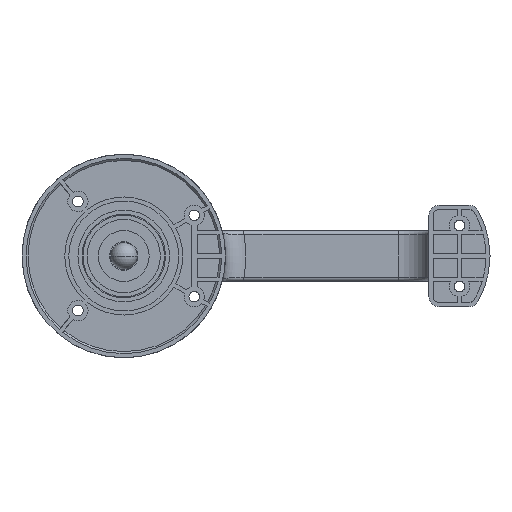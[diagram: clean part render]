
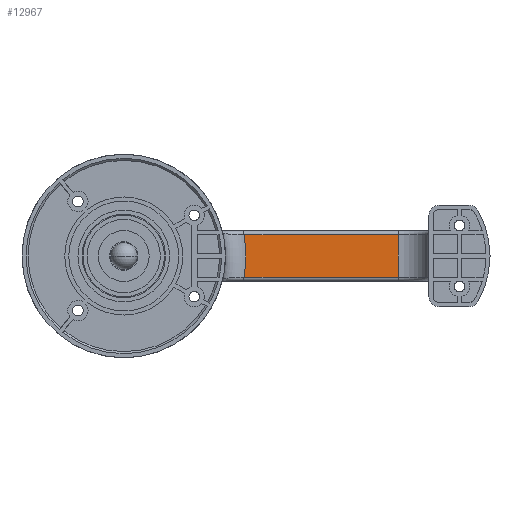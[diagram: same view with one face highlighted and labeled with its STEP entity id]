
A CAD part, left-side view. The second image highlights one B-rep face of the part: STEP entity #12967.
In plain terms, the highlighted planar face has unit normal (-1, 0, 0).
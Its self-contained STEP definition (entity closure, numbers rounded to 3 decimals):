
#647 = AXIS2_PLACEMENT_3D ( 'NONE', #3187, #1577, #17217 ) ;
#1577 = DIRECTION ( 'NONE',  ( 1., 0., 0. ) ) ;
#2820 = ORIENTED_EDGE ( 'NONE', *, *, #22670, .T. ) ;
#2938 = VECTOR ( 'NONE', #4189, 1000. ) ;
#3187 = CARTESIAN_POINT ( 'NONE',  ( -35.5, -135., 12.5 ) ) ;
#4189 = DIRECTION ( 'NONE',  ( 0., 0., -1. ) ) ;
#4276 = VECTOR ( 'NONE', #9863, 1000. ) ;
#4883 = EDGE_CURVE ( 'NONE', #13415, #5441, #13554, .T. ) ;
#5023 = FACE_OUTER_BOUND ( 'NONE', #8950, .T. ) ;
#5258 = CARTESIAN_POINT ( 'NONE',  ( -35.5, -135., -10.5 ) ) ;
#5441 = VERTEX_POINT ( 'NONE', #5648 ) ;
#5648 = CARTESIAN_POINT ( 'NONE',  ( -35.5, -59.074, -10.5 ) ) ;
#5909 = LINE ( 'NONE', #12920, #2938 ) ;
#6238 = CARTESIAN_POINT ( 'NONE',  ( -35.5, -135., -10.5 ) ) ;
#6402 = CARTESIAN_POINT ( 'NONE',  ( -35.5, -135., 10.5 ) ) ;
#7965 = LINE ( 'NONE', #6238, #9996 ) ;
#8612 = ORIENTED_EDGE ( 'NONE', *, *, #4883, .T. ) ;
#8950 = EDGE_LOOP ( 'NONE', ( #9273, #22086, #8612, #2820 ) ) ;
#9273 = ORIENTED_EDGE ( 'NONE', *, *, #12490, .F. ) ;
#9696 = VERTEX_POINT ( 'NONE', #6402 ) ;
#9844 = DIRECTION ( 'NONE',  ( 1., 0., 0. ) ) ;
#9863 = DIRECTION ( 'NONE',  ( 0., 1., 0. ) ) ;
#9996 = VECTOR ( 'NONE', #11514, 1000. ) ;
#10169 = CARTESIAN_POINT ( 'NONE',  ( -35.5, -59.074, 10.5 ) ) ;
#11514 = DIRECTION ( 'NONE',  ( 0., -1., 0. ) ) ;
#12490 = EDGE_CURVE ( 'NONE', #9696, #20484, #5909, .T. ) ;
#12920 = CARTESIAN_POINT ( 'NONE',  ( -35.5, -135., 12.5 ) ) ;
#12967 = ADVANCED_FACE ( 'NONE', ( #5023 ), #22406, .F. ) ;
#13415 = VERTEX_POINT ( 'NONE', #10169 ) ;
#13554 = CIRCLE ( 'NONE', #22002, 60. ) ;
#15595 = LINE ( 'NONE', #17319, #4276 ) ;
#16973 = CARTESIAN_POINT ( 'NONE',  ( -35.5, 0., 0. ) ) ;
#17217 = DIRECTION ( 'NONE',  ( 0., 0., -1. ) ) ;
#17319 = CARTESIAN_POINT ( 'NONE',  ( -35.5, -135., 10.5 ) ) ;
#18578 = DIRECTION ( 'NONE',  ( 0., 0., -1. ) ) ;
#20345 = EDGE_CURVE ( 'NONE', #9696, #13415, #15595, .T. ) ;
#20484 = VERTEX_POINT ( 'NONE', #5258 ) ;
#22002 = AXIS2_PLACEMENT_3D ( 'NONE', #16973, #9844, #18578 ) ;
#22086 = ORIENTED_EDGE ( 'NONE', *, *, #20345, .T. ) ;
#22406 = PLANE ( 'NONE',  #647 ) ;
#22670 = EDGE_CURVE ( 'NONE', #5441, #20484, #7965, .T. ) ;
